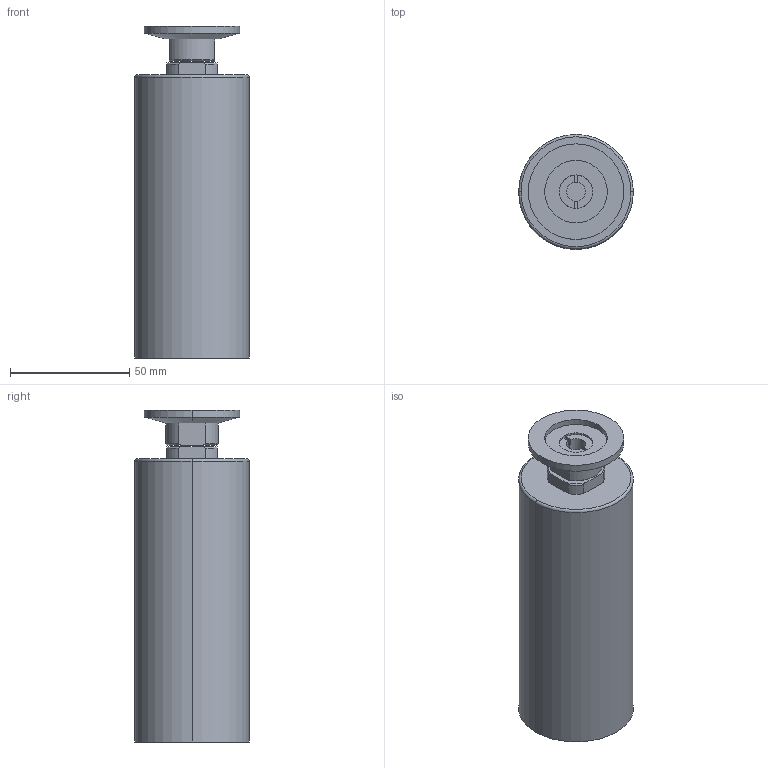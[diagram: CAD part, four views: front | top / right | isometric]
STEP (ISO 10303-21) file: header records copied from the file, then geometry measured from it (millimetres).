
FILE_DESCRIPTION (( 'STEP AP203' ), '1' );
FILE_NAME ('梓袧穢謂COT-8T.STEP', '2026-07-20T10:17:47', ( '' ), ( '' ), 'SwSTEP 2.0', 'SolidWorks 2024', '' );
FILE_SCHEMA (( 'CONFIG_CONTROL_DESIGN' ));
Length unit declared in the file: millimetre
Products named in the file (1): 标准漏孔COT-8T
Bounding box: 48 x 48 x 138.98 mm (x, y, z)
Surface area: 25941 mm2 (no closed solid volume)
Topology: 0 solids, 5 shells, 54 faces, 138 edges, 90 vertices
Faces by surface type: plane 22, cylinder 20, cone 10, torus 2
Entity records: 1725 total; most frequent: CARTESIAN_POINT 319, DIRECTION 304, ORIENTED_EDGE 244, EDGE_CURVE 138, AXIS2_PLACEMENT_3D 123, VERTEX_POINT 90, CIRCLE 68, EDGE_LOOP 59
